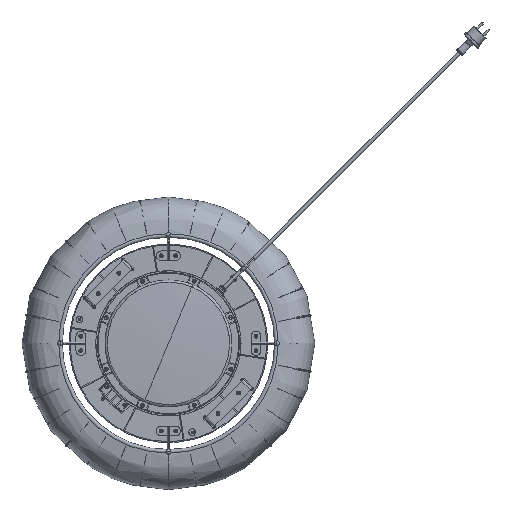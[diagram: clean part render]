
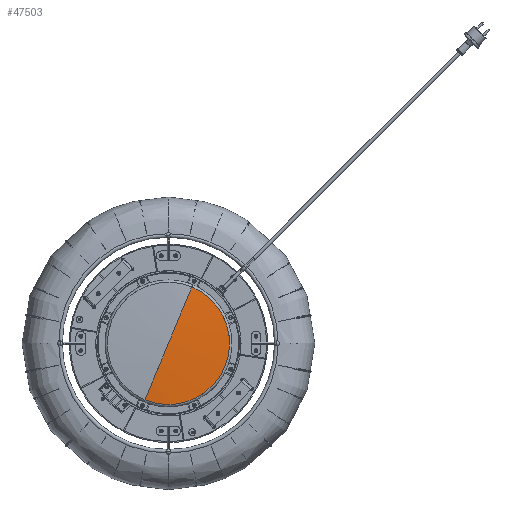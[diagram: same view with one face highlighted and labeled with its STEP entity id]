
A CAD part, front view. The second image highlights one B-rep face of the part: STEP entity #47503.
In plain terms, the highlighted spherical face has radius 1716.79 mm.
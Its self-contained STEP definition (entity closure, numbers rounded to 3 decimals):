
#1766 = ORIENTED_EDGE ( 'NONE', *, *, #96652, .F. ) ;
#9601 = CIRCLE ( 'NONE', #74354, 1716.79 ) ;
#11745 = DIRECTION ( 'NONE',  ( 0., 0., -1. ) ) ;
#12512 = AXIS2_PLACEMENT_3D ( 'NONE', #133420, #22611, #11745 ) ;
#14002 = SPHERICAL_SURFACE ( 'NONE', #61797, 1716.79 ) ;
#22611 = DIRECTION ( 'NONE',  ( 0., -1., 0. ) ) ;
#25198 = EDGE_CURVE ( 'NONE', #138822, #91369, #9601, .T. ) ;
#26976 = DIRECTION ( 'NONE',  ( 1., 0., 0. ) ) ;
#41169 = DIRECTION ( 'NONE',  ( 1., 0., 0. ) ) ;
#42234 = AXIS2_PLACEMENT_3D ( 'NONE', #57029, #135237, #78059 ) ;
#44689 = CARTESIAN_POINT ( 'NONE',  ( 0., 53.948, -126.299 ) ) ;
#47503 = ADVANCED_FACE ( 'NONE', ( #124127 ), #14002, .T. ) ;
#51966 = CARTESIAN_POINT ( 'NONE',  ( 0., 53.948, 126.299 ) ) ;
#56142 = CIRCLE ( 'NONE', #42234, 1716.79 ) ;
#57029 = CARTESIAN_POINT ( 'NONE',  ( 0., -1658.19, 0. ) ) ;
#58940 = ORIENTED_EDGE ( 'NONE', *, *, #25198, .T. ) ;
#61797 = AXIS2_PLACEMENT_3D ( 'NONE', #100955, #26976, #111830 ) ;
#74354 = AXIS2_PLACEMENT_3D ( 'NONE', #139689, #41169, #94098 ) ;
#78059 = DIRECTION ( 'NONE',  ( 0., 0., 1. ) ) ;
#86481 = EDGE_LOOP ( 'NONE', ( #116443, #58940, #1766 ) ) ;
#87746 = VERTEX_POINT ( 'NONE', #44689 ) ;
#91102 = CIRCLE ( 'NONE', #12512, 126.299 ) ;
#91369 = VERTEX_POINT ( 'NONE', #51966 ) ;
#94098 = DIRECTION ( 'NONE',  ( 0., 0., -1. ) ) ;
#96652 = EDGE_CURVE ( 'NONE', #87746, #91369, #91102, .T. ) ;
#100955 = CARTESIAN_POINT ( 'NONE',  ( 0., -1658.19, 0. ) ) ;
#107422 = EDGE_CURVE ( 'NONE', #138822, #87746, #56142, .T. ) ;
#111830 = DIRECTION ( 'NONE',  ( 0., 0., -1. ) ) ;
#116443 = ORIENTED_EDGE ( 'NONE', *, *, #107422, .F. ) ;
#124127 = FACE_OUTER_BOUND ( 'NONE', #86481, .T. ) ;
#125882 = CARTESIAN_POINT ( 'NONE',  ( 0., 58.6, 0. ) ) ;
#133420 = CARTESIAN_POINT ( 'NONE',  ( 0., 53.948, 0. ) ) ;
#135237 = DIRECTION ( 'NONE',  ( -1., 0., 0. ) ) ;
#138822 = VERTEX_POINT ( 'NONE', #125882 ) ;
#139689 = CARTESIAN_POINT ( 'NONE',  ( 0., -1658.19, 0. ) ) ;
